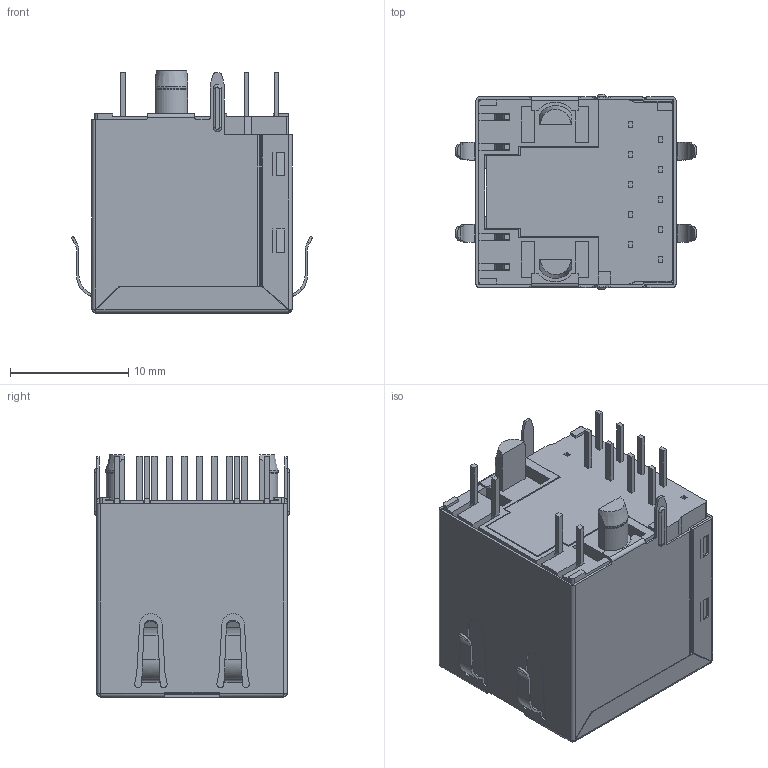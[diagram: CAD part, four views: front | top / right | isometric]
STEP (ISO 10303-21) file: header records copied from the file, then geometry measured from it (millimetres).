
FILE_DESCRIPTION((''),'2;1');
FILE_NAME('DGKYD511B048DA1A8D_ASM','2024-03-14T14:55:45',('Administrator'),(''),'CREO PARAMETRIC BY PTC INC, 2019010','CREO PARAMETRIC BY PTC INC, 2019010','');
FILE_SCHEMA(('CONFIG_CONTROL_DESIGN'));
Length unit declared in the file: millimetre
Products named in the file (22): MSBR-21; MSBR-20; MSBR-19; MSBR-18; MSBR-17; MSBR-16; MSBR-15; MSBR-14; MSBR-13; MSBR-12; MSBR-11; MSBR-10; MSBR-9; MSBR-8; MSBR-7; MSBR-6; MSBR-5; MSBR-4; MSBR-3; MSBR-2; MSBR-1; DGKYD511B048DA1A8D_ASM
Assembly tree (21 placements, depth 2):
  DGKYD511B048DA1A8D_ASM
    MSBR-21
    MSBR-20
    MSBR-19
    MSBR-18
    MSBR-17
    MSBR-16
    MSBR-15
    MSBR-14
    MSBR-13
    MSBR-12
    MSBR-11
    MSBR-10
    MSBR-9
    MSBR-8
    MSBR-7
    MSBR-6
    MSBR-5
    MSBR-4
    MSBR-3
    MSBR-2
    MSBR-1
Bounding box: 20.4 x 16.5 x 20.45 mm (x, y, z)
Volume: 2711.8 mm3; surface area: 6554.2 mm2
Topology: 21 solids, 21 shells, 937 faces, 2647 edges, 1745 vertices
Faces by surface type: plane 709, cylinder 210, cone 6, sphere 4, torus 4, bspline 4
Entity records: 31079 total; most frequent: CARTESIAN_POINT 6253, ORIENTED_EDGE 5286, DIRECTION 4801, EDGE_CURVE 2643, VECTOR 2113, LINE 2113, VERTEX_POINT 1745, AXIS2_PLACEMENT_3D 1344
